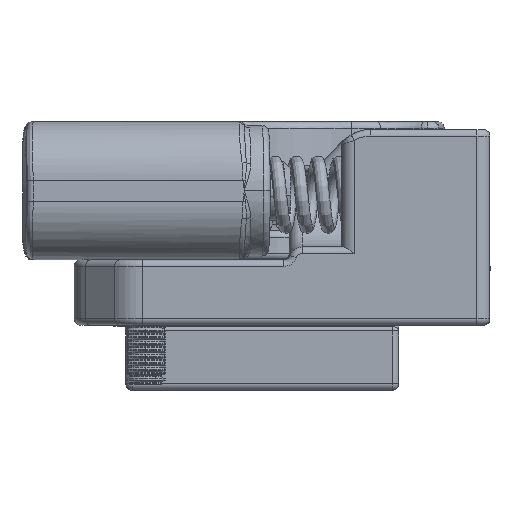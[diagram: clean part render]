
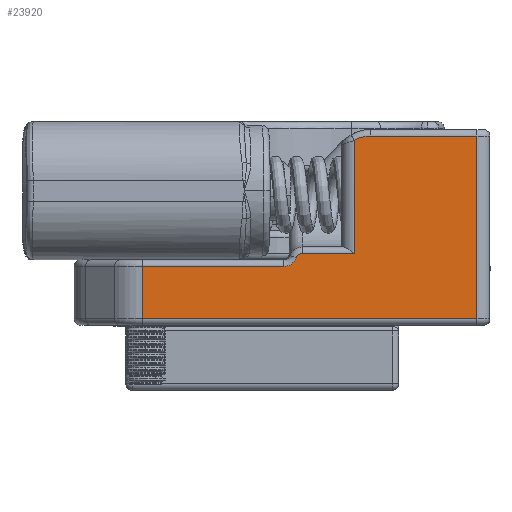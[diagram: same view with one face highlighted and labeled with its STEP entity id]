
A CAD part, left-side view. The second image highlights one B-rep face of the part: STEP entity #23920.
In plain terms, the highlighted planar face has unit normal (-1, 0, 0).
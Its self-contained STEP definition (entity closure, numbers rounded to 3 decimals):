
#3608 = FACE_OUTER_BOUND ( 'NONE', #43658, .T. ) ;
#7767 = PLANE ( 'NONE',  #55093 ) ;
#7768 = CARTESIAN_POINT ( 'NONE',  ( -43.52, 5.5, 15. ) ) ;
#7779 = DIRECTION ( 'NONE',  ( 1., 0., 0. ) ) ;
#7780 = DIRECTION ( 'NONE',  ( 0., 1., 0. ) ) ;
#23920 = ADVANCED_FACE ( 'NONE', ( #3608 ), #7767, .F. ) ;
#30000 = EDGE_CURVE ( 'NONE', #31815, #31817, #42975, .T. ) ;
#30003 = EDGE_CURVE ( 'NONE', #31817, #31828, #42965, .T. ) ;
#30005 = EDGE_CURVE ( 'NONE', #31828, #31830, #42983, .T. ) ;
#30007 = EDGE_CURVE ( 'NONE', #31830, #31832, #42987, .T. ) ;
#30010 = EDGE_CURVE ( 'NONE', #31832, #31834, #42989, .T. ) ;
#30012 = EDGE_CURVE ( 'NONE', #31834, #31837, #42993, .T. ) ;
#30013 = EDGE_CURVE ( 'NONE', #31837, #31838, #42997, .T. ) ;
#30015 = EDGE_CURVE ( 'NONE', #31838, #31840, #42999, .T. ) ;
#30017 = EDGE_CURVE ( 'NONE', #31840, #31842, #43001, .T. ) ;
#30018 = EDGE_CURVE ( 'NONE', #31842, #31815, #43005, .T. ) ;
#30660 = ORIENTED_EDGE ( 'NONE', *, *, #30000, .T. ) ;
#30662 = ORIENTED_EDGE ( 'NONE', *, *, #30003, .T. ) ;
#30664 = ORIENTED_EDGE ( 'NONE', *, *, #30005, .T. ) ;
#30666 = ORIENTED_EDGE ( 'NONE', *, *, #30007, .T. ) ;
#30669 = ORIENTED_EDGE ( 'NONE', *, *, #30010, .T. ) ;
#30671 = ORIENTED_EDGE ( 'NONE', *, *, #30012, .T. ) ;
#30672 = ORIENTED_EDGE ( 'NONE', *, *, #30013, .T. ) ;
#30674 = ORIENTED_EDGE ( 'NONE', *, *, #30015, .T. ) ;
#30676 = ORIENTED_EDGE ( 'NONE', *, *, #30017, .T. ) ;
#30678 = ORIENTED_EDGE ( 'NONE', *, *, #30018, .T. ) ;
#31815 = VERTEX_POINT ( 'NONE', #51248 ) ;
#31817 = VERTEX_POINT ( 'NONE', #51249 ) ;
#31828 = VERTEX_POINT ( 'NONE', #51254 ) ;
#31830 = VERTEX_POINT ( 'NONE', #51255 ) ;
#31832 = VERTEX_POINT ( 'NONE', #51256 ) ;
#31834 = VERTEX_POINT ( 'NONE', #51257 ) ;
#31837 = VERTEX_POINT ( 'NONE', #51258 ) ;
#31838 = VERTEX_POINT ( 'NONE', #51259 ) ;
#31840 = VERTEX_POINT ( 'NONE', #51260 ) ;
#31842 = VERTEX_POINT ( 'NONE', #51261 ) ;
#42965 = LINE ( 'NONE', #48642, #42985 ) ;
#42975 = LINE ( 'NONE', #48649, #42981 ) ;
#42981 = VECTOR ( 'NONE', #48651, 1000. ) ;
#42983 = CIRCLE ( 'NONE', #49817, 2.5 ) ;
#42985 = VECTOR ( 'NONE', #48653, 1000. ) ;
#42987 = LINE ( 'NONE', #48650, #42991 ) ;
#42989 = LINE ( 'NONE', #48664, #42995 ) ;
#42991 = VECTOR ( 'NONE', #48639, 1000. ) ;
#42993 = CIRCLE ( 'NONE', #49818, 0.5 ) ;
#42995 = VECTOR ( 'NONE', #48666, 1000. ) ;
#42997 = CIRCLE ( 'NONE', #49819, 1. ) ;
#42999 = LINE ( 'NONE', #48668, #43003 ) ;
#43001 = LINE ( 'NONE', #48686, #43007 ) ;
#43003 = VECTOR ( 'NONE', #48671, 1000. ) ;
#43005 = LINE ( 'NONE', #48689, #43011 ) ;
#43007 = VECTOR ( 'NONE', #48687, 1000. ) ;
#43011 = VECTOR ( 'NONE', #48692, 1000. ) ;
#43658 = EDGE_LOOP ( 'NONE', ( #30660, #30662, #30664, #30666, #30669, #30671, #30672, #30674, #30676, #30678 ) ) ;
#48639 = DIRECTION ( 'NONE',  ( 0., 0., -1. ) ) ;
#48642 = CARTESIAN_POINT ( 'NONE',  ( -43.52, -17.243, 14.5 ) ) ;
#48649 = CARTESIAN_POINT ( 'NONE',  ( -43.52, -25.4, 15. ) ) ;
#48650 = CARTESIAN_POINT ( 'NONE',  ( -43.52, -16., 6. ) ) ;
#48651 = DIRECTION ( 'NONE',  ( 0., 0., 1. ) ) ;
#48653 = DIRECTION ( 'NONE',  ( 0., 1., 0. ) ) ;
#48659 = CARTESIAN_POINT ( 'NONE',  ( -43.52, -17.243, 12. ) ) ;
#48660 = DIRECTION ( 'NONE',  ( -1., 0., 0. ) ) ;
#48661 = DIRECTION ( 'NONE',  ( 0., 1., 0. ) ) ;
#48664 = CARTESIAN_POINT ( 'NONE',  ( -43.52, -12., 5.5 ) ) ;
#48666 = DIRECTION ( 'NONE',  ( 0., 1., 0. ) ) ;
#48668 = CARTESIAN_POINT ( 'NONE',  ( -43.52, 5.5, 4.5 ) ) ;
#48671 = DIRECTION ( 'NONE',  ( 0., 1., 0. ) ) ;
#48672 = CARTESIAN_POINT ( 'NONE',  ( -43.52, -12., 5. ) ) ;
#48673 = DIRECTION ( 'NONE',  ( -1., 0., 0. ) ) ;
#48675 = DIRECTION ( 'NONE',  ( 0., 1., 0. ) ) ;
#48680 = CARTESIAN_POINT ( 'NONE',  ( -43.52, -10.586, 5.5 ) ) ;
#48681 = DIRECTION ( 'NONE',  ( 1., 0., 0. ) ) ;
#48683 = DIRECTION ( 'NONE',  ( 0., 1., 0. ) ) ;
#48686 = CARTESIAN_POINT ( 'NONE',  ( -43.52, 0.257, 0. ) ) ;
#48687 = DIRECTION ( 'NONE',  ( 0., 0., -1. ) ) ;
#48689 = CARTESIAN_POINT ( 'NONE',  ( -43.52, 5.5, 0.5 ) ) ;
#48692 = DIRECTION ( 'NONE',  ( 0., -1., 0. ) ) ;
#49817 = AXIS2_PLACEMENT_3D ( 'NONE', #48659, #48660, #48661 ) ;
#49818 = AXIS2_PLACEMENT_3D ( 'NONE', #48672, #48673, #48675 ) ;
#49819 = AXIS2_PLACEMENT_3D ( 'NONE', #48680, #48681, #48683 ) ;
#51248 = CARTESIAN_POINT ( 'NONE',  ( -43.52, -25.4, 0.5 ) ) ;
#51249 = CARTESIAN_POINT ( 'NONE',  ( -43.52, -25.4, 14.5 ) ) ;
#51254 = CARTESIAN_POINT ( 'NONE',  ( -43.52, -17.243, 14.5 ) ) ;
#51255 = CARTESIAN_POINT ( 'NONE',  ( -43.52, -16., 14.169 ) ) ;
#51256 = CARTESIAN_POINT ( 'NONE',  ( -43.52, -16., 5.5 ) ) ;
#51257 = CARTESIAN_POINT ( 'NONE',  ( -43.52, -12., 5.5 ) ) ;
#51258 = CARTESIAN_POINT ( 'NONE',  ( -43.52, -11.529, 5.167 ) ) ;
#51259 = CARTESIAN_POINT ( 'NONE',  ( -43.52, -10.586, 4.5 ) ) ;
#51260 = CARTESIAN_POINT ( 'NONE',  ( -43.52, 0.257, 4.5 ) ) ;
#51261 = CARTESIAN_POINT ( 'NONE',  ( -43.52, 0.257, 0.5 ) ) ;
#55093 = AXIS2_PLACEMENT_3D ( 'NONE', #7768, #7779, #7780 ) ;
